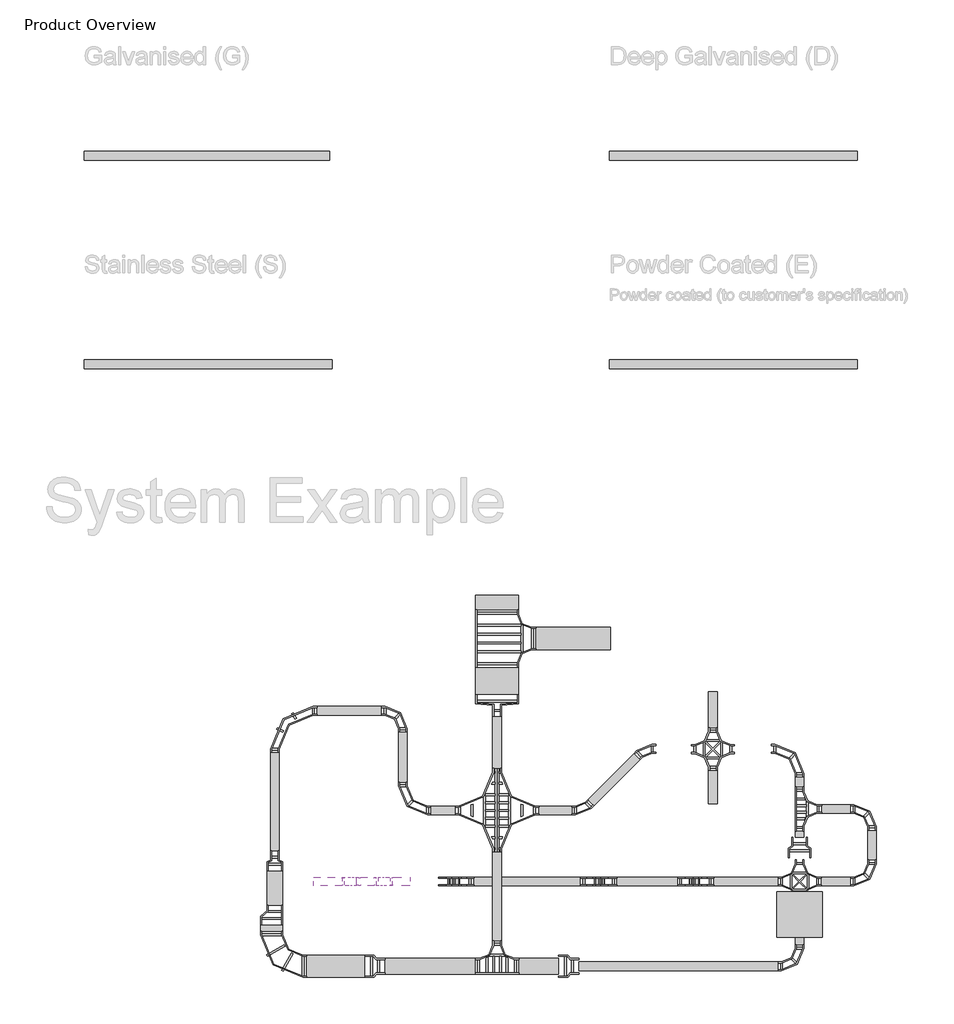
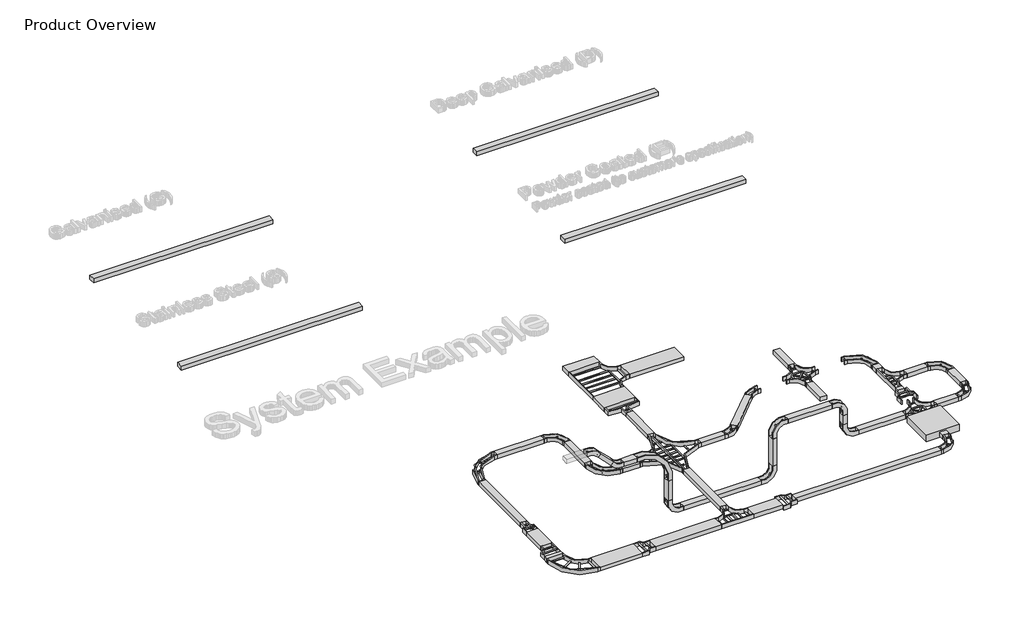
# One storey, part 1 of 11: 38 cable carrier segments, 31 cable carrier fittings.
"""IFC4 building model written with IfcOpenShell, lengths in millimetres."""

from ifc_helpers import new_model, si_unit, frame, origin, place, context, project, spatial, polyline, outline, extrude, transform, mapped, element, save
from components import cable_carrier_fitting_443c3c15, cable_carrier_fitting_424e6675, cable_carrier_fitting_62d549bb, cable_carrier_fitting_29c7f716, cable_carrier_fitting_75fde7c1, cable_carrier_fitting_a240c298, cable_carrier_fitting_5d45cd42, cable_carrier_fitting_f8c73cef, cable_carrier_fitting_98b40e06, cable_carrier_fitting_26770770, cable_carrier_fitting_0c686f5f, cable_carrier_fitting_333dc7c5, cable_carrier_fitting_d1dd5aaa, cable_carrier_fitting_c9547b50, cable_carrier_fitting_65ff17de, cable_carrier_fitting_0ded0fd3, cable_carrier_fitting_31077549, cable_carrier_fitting_8b4ef095, cable_carrier_fitting_3950a025, cable_carrier_fitting_13c8b803

model = new_model("IFC4")

# Units and contexts
model_context = context("Model", 3, world=origin())
ifc_project = project(units=[si_unit("LENGTHUNIT", "METRE", prefix="MILLI")], contexts=[model_context])

# Site, building, storey
site = spatial("IfcSite", under=ifc_project)
building = spatial("IfcBuilding", under=site)
storey = spatial("IfcBuildingStorey", under=building, Name="Product Overview", Elevation=0.0)

# Cable carrier fittings
placement = place(None, origin())
cable_carrier_fitting_shape = cable_carrier_fitting_443c3c15(model_context)
element("IfcCableCarrierFitting", 1, ObjectType="Legrand_CableLadder_Swifts_Sapphire_InsideRiser-13 : Hot Dip Galvanised (after manufacture)", at=placement, inside=storey, context=model_context, shape_type="MappedRepresentation", body=[
    mapped(cable_carrier_fitting_shape, transform((-2535.3278682, -30727.1295085, 0.0), x_axis=(-1.0, 0.0, 0.0), y_axis=(0.0, 0.0, 1.0), z_axis=(0.0, 1.0, 0.0))),
])
element("IfcCableCarrierFitting", 2, ObjectType="Legrand_CableLadder_Swifts_Sapphire_InsideRiser-13 : Hot Dip Galvanised (after manufacture)", at=placement, inside=storey, context=model_context, shape_type="MappedRepresentation", body=[
    mapped(cable_carrier_fitting_shape, transform((-4675.3278682, -30727.1295085, -580.0), x_axis=(0.0, 0.0, -1.0), y_axis=(-1.0, 0.0, 0.0), z_axis=(0.0, 1.0, 0.0))),
])
element("IfcCableCarrierFitting", 3, ObjectType="Legrand_CableLadder_Swifts_Sapphire_InsideRiser-13 : Hot Dip Galvanised (after manufacture)", at=placement, inside=storey, context=model_context, shape_type="MappedRepresentation", body=[
    mapped(cable_carrier_fitting_shape, transform((-7835.3278682, -30727.1295085, -580.0), x_axis=(-1.0, 0.0, 0.0), y_axis=(0.0, 0.0, 1.0), z_axis=(0.0, 1.0, 0.0))),
])
cable_carrier_fitting_2_shape = cable_carrier_fitting_424e6675(model_context)
element("IfcCableCarrierFitting", 4, ObjectType="Legrand_CableLadder_Swifts_Sapphire_InsideRiser-13 : Hot Dip Galvanised (after manufacture)", at=placement, inside=storey, context=model_context, shape_type="MappedRepresentation", body=[
    mapped(cable_carrier_fitting_2_shape, transform((-9435.3278682, -30727.1295085, 1460.0), x_axis=(-1.0, 0.0, 0.0), y_axis=(0.0, 0.0, 1.0), z_axis=(0.0, 1.0, 0.0))),
])
cable_carrier_fitting_3_shape = cable_carrier_fitting_62d549bb(model_context)
element("IfcCableCarrierFitting", 5, ObjectType="Legrand_CableLadder_Swifts_Sapphire_OutsideRiser-13 : Hot Dip Galvanised (after manufacture)", at=placement, inside=storey, context=model_context, shape_type="MappedRepresentation", body=[
    mapped(cable_carrier_fitting_3_shape, transform((-7835.3278682, -30727.1295085, 1460.0), x_axis=(0.0, 0.0, 1.0), y_axis=(-1.0, 0.0, 0.0), z_axis=(0.0, -1.0, 0.0))),
])
cable_carrier_fitting_4_shape = cable_carrier_fitting_29c7f716(model_context)
element("IfcCableCarrierFitting", 6, ObjectType="Legrand_CableLadder_Swifts_Sapphire_Tee-300R-13 : Hot Dip Galvanised (after manufacture)", at=placement, inside=storey, context=model_context, shape_type="MappedRepresentation", body=[
    mapped(cable_carrier_fitting_4_shape, transform((-235.3278682, -29125.8055177, 0.0), x_axis=(0.0, 1.0, 0.0), y_axis=(-1.0, 0.0, 0.0), z_axis=(0.0, 0.0, 1.0))),
])
cable_carrier_fitting_5_shape = cable_carrier_fitting_75fde7c1(model_context)
element("IfcCableCarrierFitting", 7, ObjectType="Legrand_CableLadder_Swifts_Sapphire_Cross-300R-13 : Hot Dip Galvanised (after manufacture)", at=placement, inside=storey, context=model_context, shape_type="MappedRepresentation", body=[
    mapped(cable_carrier_fitting_5_shape, transform((-235.3278682, -30727.1295085, 0.0), x_axis=(-1.0, 0.0, 0.0), y_axis=(0.0, -1.0, 0.0), z_axis=(0.0, 0.0, 1.0))),
])
element("IfcCableCarrierFitting", 8, ObjectType="Legrand_CableLadder_Swifts_Sapphire_Cross-300R-13 : Hot Dip Galvanised (after manufacture)", at=placement, inside=storey, context=model_context, shape_type="MappedRepresentation", body=[
    mapped(cable_carrier_fitting_5_shape, transform((-2149.1009275, -27806.4557468, 0.0), x_axis=(0.0, -1.0, 0.0), y_axis=(1.0, 0.0, 0.0), z_axis=(0.0, 0.0, 1.0))),
])
cable_carrier_fitting_6_shape = cable_carrier_fitting_a240c298(model_context)
element("IfcCableCarrierFitting", 9, ObjectType="Legrand_CableLadder_Swifts_Sapphire_Reducer-13 : Straight - Hot Dip Galvanised (after manufacture)", at=placement, inside=storey, context=model_context, shape_type="MappedRepresentation", body=[
    mapped(cable_carrier_fitting_6_shape, transform((-5335.3278682, -32598.0623334, 0.0), x_axis=(-1.0, 0.0, 0.0), y_axis=(0.0, 1.0, 0.0), z_axis=(0.0, 0.0, -1.0))),
])
element("IfcCableCarrierFitting", 10, ObjectType="Legrand_CableLadder_Swifts_Sapphire_Reducer-13 : Straight - Hot Dip Galvanised (after manufacture)", at=placement, inside=storey, context=model_context, shape_type="MappedRepresentation", body=[
    mapped(cable_carrier_fitting_6_shape, transform((-9618.7108514, -32598.0623334, 0.0), x_axis=(-1.0, 0.0, 0.0), y_axis=(0.0, 1.0, 0.0), z_axis=(0.0, 0.0, -1.0))),
])
element("IfcCableCarrierFitting", 11, ObjectType="Legrand_CableLadder_Swifts_Sapphire_Reducer-13 : Straight - Hot Dip Galvanised (after manufacture)", at=placement, inside=storey, context=model_context, shape_type="MappedRepresentation", body=[
    mapped(cable_carrier_fitting_6_shape, transform((-235.3278682, -29975.1295085, 0.0), x_axis=(0.0, -1.0, 0.0), y_axis=(-1.0, 0.0, 0.0), z_axis=(0.0, 0.0, -1.0))),
])
cable_carrier_fitting_7_shape = cable_carrier_fitting_5d45cd42(model_context)
element("IfcCableCarrierFitting", 12, ObjectType="Legrand_CableLadder_Swifts_Sapphire_Reducer-13 : Right Hand - Hot Dip Galvanised (after manufacture)", at=placement, inside=storey, context=model_context, shape_type="MappedRepresentation", body=[
    mapped(cable_carrier_fitting_7_shape, transform((-11896.6702496, -31473.0623334, 0.0), x_axis=(0.0, -1.0, 0.0), y_axis=(-1.0, 0.0, 0.0), z_axis=(0.0, 0.0, -1.0))),
])
cable_carrier_fitting_8_shape = cable_carrier_fitting_f8c73cef(model_context)
element("IfcCableCarrierFitting", 13, ObjectType="Legrand_CableLadder_Swifts_Sapphire_Cross2Piece-750R-13 : Hot Dip Galvanised (after manufacture)", at=placement, inside=storey, context=model_context, shape_type="MappedRepresentation", body=[
    mapped(cable_carrier_fitting_8_shape, transform((-6916.8898911, -29159.4047148, 0.0), x_axis=(0.0, -1.0, 0.0), y_axis=(1.0, 0.0, 0.0), z_axis=(0.0, 0.0, 1.0))),
])
cable_carrier_fitting_9_shape = cable_carrier_fitting_98b40e06(model_context)
element("IfcCableCarrierFitting", 14, ObjectType="Legrand_CableLadder_Swifts_Sapphire_FlatBend-13 : Hot Dip Galvanised (after manufacture)", at=placement, inside=storey, context=model_context, shape_type="MappedRepresentation", body=[
    mapped(cable_carrier_fitting_9_shape, transform((-235.3278682, -32598.0623334, 0.0), x_axis=(1.0, 0.0, 0.0), y_axis=(0.0, 1.0, 0.0), z_axis=(0.0, 0.0, 1.0))),
])
element("IfcCableCarrierFitting", 15, ObjectType="Legrand_CableLadder_Swifts_Sapphire_FlatBend-13 : Hot Dip Galvanised (after manufacture)", at=placement, inside=storey, context=model_context, shape_type="MappedRepresentation", body=[
    mapped(cable_carrier_fitting_9_shape, transform((-8996.6702496, -26959.4047148, 0.0), x_axis=(0.0, 1.0, 0.0), y_axis=(-1.0, 0.0, 0.0), z_axis=(0.0, 0.0, 1.0))),
])
element("IfcCableCarrierFitting", 16, ObjectType="Legrand_CableLadder_Swifts_Sapphire_FlatBend-13 : Hot Dip Galvanised (after manufacture)", at=placement, inside=storey, context=model_context, shape_type="MappedRepresentation", body=[
    mapped(cable_carrier_fitting_9_shape, transform((1364.6721318, -29125.8055177, 0.0), x_axis=(0.0, 1.0, 0.0), y_axis=(-1.0, 0.0, 0.0), z_axis=(0.0, 0.0, 1.0))),
])
element("IfcCableCarrierFitting", 17, ObjectType="Legrand_CableLadder_Swifts_Sapphire_FlatBend-13 : Hot Dip Galvanised (after manufacture)", at=placement, inside=storey, context=model_context, shape_type="MappedRepresentation", body=[
    mapped(cable_carrier_fitting_9_shape, transform((1364.6721318, -30727.1295085, 0.0), x_axis=(1.0, 0.0, 0.0), y_axis=(0.0, 1.0, 0.0), z_axis=(0.0, 0.0, 1.0))),
])
cable_carrier_fitting_10_shape = cable_carrier_fitting_26770770(model_context)
element("IfcCableCarrierFitting", 18, ObjectType="Legrand_CableLadder_Swifts_Sapphire_FlatBend-13 : Hot Dip Galvanised (after manufacture)", at=placement, inside=storey, context=model_context, shape_type="MappedRepresentation", body=[
    mapped(cable_carrier_fitting_10_shape, transform((-235.3278682, -27798.0623334, 0.0), x_axis=(0.0, 1.0, 0.0), y_axis=(-1.0, 0.0, 0.0), z_axis=(0.0, 0.0, 1.0))),
])
element("IfcCableCarrierFitting", 19, ObjectType="Legrand_CableLadder_Swifts_Sapphire_FlatBend-13 : Hot Dip Galvanised (after manufacture)", at=placement, inside=storey, context=model_context, shape_type="MappedRepresentation", body=[
    mapped(cable_carrier_fitting_10_shape, transform((-8996.6702496, -29159.4047148, 0.0), x_axis=(0.0, -1.0, 0.0), y_axis=(1.0, 0.0, 0.0), z_axis=(0.0, 0.0, 1.0))),
])
cable_carrier_fitting_11_shape = cable_carrier_fitting_0c686f5f(model_context)
element("IfcCableCarrierFitting", 20, ObjectType="Legrand_CableLadder_Swifts_Sapphire_FlatBend-13 : Hot Dip Galvanised (after manufacture)", at=placement, inside=storey, context=model_context, shape_type="MappedRepresentation", body=[
    mapped(cable_carrier_fitting_11_shape, transform((-5016.6702496, -29159.4047148, 0.0), x_axis=(1.0, 0.0, 0.0), y_axis=(0.0, 1.0, 0.0), z_axis=(0.0, 0.0, 1.0))),
])
element("IfcCableCarrierFitting", 21, ObjectType="Legrand_CableLadder_Swifts_Sapphire_FlatBend-13 : Hot Dip Galvanised (after manufacture)", at=placement, inside=storey, context=model_context, shape_type="MappedRepresentation", body=[
    mapped(cable_carrier_fitting_11_shape, transform((-3655.3278682, -27798.0623334, 0.0), x_axis=(-1.0, 0.0, 0.0), y_axis=(0.0, -1.0, 0.0), z_axis=(0.0, 0.0, 1.0))),
])
cable_carrier_fitting_12_shape = cable_carrier_fitting_333dc7c5(model_context)
element("IfcCableCarrierFitting", 22, ObjectType="Legrand_CableLadder_Swifts_Sapphire_FlatBend-13 : Hot Dip Galvanised (after manufacture)", at=placement, inside=storey, context=model_context, shape_type="MappedRepresentation", body=[
    mapped(cable_carrier_fitting_12_shape, transform((-11896.6702496, -32598.0623334, 0.0), x_axis=(0.0, -1.0, 0.0), y_axis=(1.0, 0.0, 0.0), z_axis=(0.0, 0.0, 1.0))),
])
cable_carrier_fitting_13_shape = cable_carrier_fitting_d1dd5aaa(model_context)
element("IfcCableCarrierFitting", 23, ObjectType="Legrand_CableLadder_Swifts_Sapphire_FlatBend-13 : Hot Dip Galvanised (after manufacture)", at=placement, inside=storey, context=model_context, shape_type="MappedRepresentation", body=[
    mapped(cable_carrier_fitting_13_shape, transform((-11821.6702496, -26959.4047148, 0.0), x_axis=(-1.0, 0.0, 0.0), y_axis=(0.0, -1.0, 0.0), z_axis=(0.0, 0.0, 1.0))),
])
cable_carrier_fitting_14_shape = cable_carrier_fitting_c9547b50(model_context)
element("IfcCableCarrierFitting", 24, ObjectType="Legrand_CableLadder_Swifts_Sapphire_OutsideRiser-13 : Hot Dip Galvanised (after manufacture)", at=placement, inside=storey, context=model_context, shape_type="MappedRepresentation", body=[
    mapped(cable_carrier_fitting_14_shape, transform((-2535.3278682, -30727.1295085, 1100.0), x_axis=(0.0, 0.0, 1.0), y_axis=(-1.0, 0.0, 0.0), z_axis=(0.0, -1.0, 0.0))),
])
element("IfcCableCarrierFitting", 25, ObjectType="Legrand_CableLadder_Swifts_Sapphire_OutsideRiser-13 : Hot Dip Galvanised (after manufacture)", at=placement, inside=storey, context=model_context, shape_type="MappedRepresentation", body=[
    mapped(cable_carrier_fitting_14_shape, transform((-4675.3278682, -30727.1295085, 1100.0), x_axis=(-1.0, 0.0, 0.0), y_axis=(0.0, 0.0, -1.0), z_axis=(0.0, -1.0, 0.0))),
])
cable_carrier_fitting_15_shape = cable_carrier_fitting_65ff17de(model_context)
element("IfcCableCarrierFitting", 26, ObjectType="Legrand_CableLadder_Swifts_Sapphire_OutsideRiser-13 : Hot Dip Galvanised (after manufacture)", at=placement, inside=storey, context=model_context, shape_type="MappedRepresentation", body=[
    mapped(cable_carrier_fitting_15_shape, transform((-10128.2925137, -30727.1295085, 2152.9646456), x_axis=(-0.7071067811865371, 0.0, 0.7071067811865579), y_axis=(-0.7071067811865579, 0.0, -0.7071067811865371), z_axis=(0.0, -1.0, 0.0))),
])
cable_carrier_fitting_16_shape = cable_carrier_fitting_0ded0fd3(model_context)
element("IfcCableCarrierFitting", 27, ObjectType="Legrand_CableLadder_Swifts_Sapphire_Reducer-13 : Straight - Hot Dip Galvanised (after manufacture)", at=placement, inside=storey, context=model_context, shape_type="MappedRepresentation", body=[
    mapped(cable_carrier_fitting_16_shape, transform((-235.3278682, -31454.1295085, 0.0), x_axis=(0.0, 1.0, 0.0), y_axis=(1.0, 0.0, 0.0), z_axis=(0.0, 0.0, -1.0))),
])
cable_carrier_fitting_17_shape = cable_carrier_fitting_31077549(model_context)
element("IfcCableCarrierFitting", 28, ObjectType="Legrand_CableLadder_Swifts_Sapphire_Reducer-13 : Straight - Hot Dip Galvanised (after manufacture)", at=placement, inside=storey, context=model_context, shape_type="MappedRepresentation", body=[
    mapped(cable_carrier_fitting_17_shape, transform((-11821.6702496, -30273.0623334, 0.0), x_axis=(0.0, -1.0, 0.0), y_axis=(-1.0, 0.0, 0.0), z_axis=(0.0, 0.0, -1.0))),
])
cable_carrier_fitting_18_shape = cable_carrier_fitting_8b4ef095(model_context)
element("IfcCableCarrierFitting", 29, ObjectType="Legrand_CableLadder_Swifts_Sapphire_Reducer-13 : Straight - Hot Dip Galvanised (after manufacture)", at=placement, inside=storey, context=model_context, shape_type="MappedRepresentation", body=[
    mapped(cable_carrier_fitting_18_shape, transform((-6916.8898911, -26842.4047148, 0.0), x_axis=(0.0, 1.0, 0.0), y_axis=(1.0, 0.0, 0.0), z_axis=(0.0, 0.0, -1.0))),
])
cable_carrier_fitting_19_shape = cable_carrier_fitting_3950a025(model_context)
element("IfcCableCarrierFitting", 30, ObjectType="Legrand_CableLadder_Swifts_Sapphire_Tee-300R-13 : Hot Dip Galvanised (after manufacture)", at=placement, inside=storey, context=model_context, shape_type="MappedRepresentation", body=[
    mapped(cable_carrier_fitting_19_shape, transform((-6916.8898911, -32598.0623334, 0.0), x_axis=(-1.0, 0.0, 0.0), y_axis=(0.0, -1.0, 0.0), z_axis=(0.0, 0.0, 1.0))),
])
cable_carrier_fitting_20_shape = cable_carrier_fitting_13c8b803(model_context)
element("IfcCableCarrierFitting", 31, ObjectType="Legrand_CableLadder_Swifts_Sapphire_Tee-300R-13 : Hot Dip Galvanised (after manufacture)", at=placement, inside=storey, context=model_context, shape_type="MappedRepresentation", body=[
    mapped(cable_carrier_fitting_20_shape, transform((-6916.8898911, -25363.4427232, 0.0), x_axis=(0.0, 1.0, 0.0), y_axis=(-1.0, 0.0, 0.0), z_axis=(0.0, 0.0, 1.0))),
])

# Cable carrier segments
element("IfcCableCarrierSegment", 32, ObjectType="Swifts Cable Ladder - Sapphire - Hot Dip Galvanised (after manufacture)", at=placement, inside=storey, context=model_context, shape_type="SweptSolid", body=[
    extrude(outline(polyline([(-16036.6702496, -14805.2353756), (-16036.6702496, -14611.2353756), (-10616.5659778, -14611.2353756), (-10616.5659778, -14805.2353756), (-16036.6702496, -14805.2353756)])), frame((0.0, 0.0, -62.5), z_axis=(0.0, 0.0, 1.0), x_axis=(1.0, 0.0, 0.0)), (0.0, 0.0, 1.0), 125.0),
])
element("IfcCableCarrierSegment", 33, ObjectType="Swifts Cable Ladder - Sapphire - Stainless Steel", at=placement, inside=storey, context=model_context, shape_type="SweptSolid", body=[
    extrude(outline(polyline([(-16036.6702496, -19405.2353756), (-16036.6702496, -19211.2353756), (-10556.5659778, -19211.2353756), (-10556.5659778, -19405.2353756), (-16036.6702496, -19405.2353756)])), frame((0.0, 0.0, -62.5), z_axis=(0.0, 0.0, 1.0), x_axis=(1.0, 0.0, 0.0)), (0.0, 0.0, 1.0), 125.0),
])
element("IfcCableCarrierSegment", 34, ObjectType="Swifts Cable Ladder - Sapphire - Deep Galvanized", at=placement, inside=storey, context=model_context, shape_type="SweptSolid", body=[
    extrude(outline(polyline([(-4436.6702496, -14805.2353756), (-4436.6702496, -14611.2353756), (1043.4340222, -14611.2353756), (1043.4340222, -14805.2353756), (-4436.6702496, -14805.2353756)])), frame((0.0, 0.0, -62.5), z_axis=(0.0, 0.0, 1.0), x_axis=(1.0, 0.0, 0.0)), (0.0, 0.0, 1.0), 125.0),
])
element("IfcCableCarrierSegment", 35, ObjectType="Swifts Cable Ladder - Sapphire - Powder Coated", at=placement, inside=storey, context=model_context, shape_type="SweptSolid", body=[
    extrude(outline(polyline([(-4436.6702496, -19405.2353756), (-4436.6702496, -19211.2353756), (1043.4340222, -19211.2353756), (1043.4340222, -19405.2353756), (-4436.6702496, -19405.2353756)])), frame((0.0, 0.0, -62.5), z_axis=(0.0, 0.0, 1.0), x_axis=(1.0, 0.0, 0.0)), (0.0, 0.0, 1.0), 125.0),
])
element("IfcCableCarrierSegment", 36, ObjectType="Swifts Cable Ladder - Sapphire - Hot Dip Galvanised (after manufacture)", at=placement, inside=storey, context=model_context, shape_type="SweptSolid", body=[
    extrude(outline(polyline([(-6427.1398911, -32770.0623334), (-6427.1398911, -32426.0623334), (-5560.3278682, -32426.0623334), (-5560.3278682, -32770.0623334), (-6427.1398911, -32770.0623334)])), frame((0.0, 0.0, -62.5), z_axis=(0.0, 0.0, 1.0), x_axis=(1.0, 0.0, 0.0)), (0.0, 0.0, 1.0), 125.0),
])
element("IfcCableCarrierSegment", 37, ObjectType="Swifts Cable Ladder - Sapphire - Hot Dip Galvanised (after manufacture)", at=placement, inside=storey, context=model_context, shape_type="SweptSolid", body=[
    extrude(outline(polyline([(-5110.3278682, -32695.0623334), (-5110.3278682, -32501.0623334), (-712.3278682, -32501.0623334), (-712.3278682, -32695.0623334), (-5110.3278682, -32695.0623334)])), frame((0.0, 0.0, -62.5), z_axis=(0.0, 0.0, 1.0), x_axis=(1.0, 0.0, 0.0)), (0.0, 0.0, 1.0), 125.0),
])
element("IfcCableCarrierSegment", 38, ObjectType="Swifts Cable Ladder - Sapphire - Hot Dip Galvanised (after manufacture)", at=placement, inside=storey, context=model_context, shape_type="SweptSolid", body=[
    extrude(outline(polyline([(-138.3278682, -28636.0555177), (-332.3278682, -28636.0555177), (-332.3278682, -28425.0623334), (-138.3278682, -28425.0623334), (-138.3278682, -28636.0555177)])), frame((0.0, 0.0, -62.5), z_axis=(0.0, 0.0, 1.0), x_axis=(1.0, 0.0, 0.0)), (0.0, 0.0, 1.0), 125.0),
])
element("IfcCableCarrierSegment", 39, ObjectType="Swifts Cable Ladder - Sapphire - Hot Dip Galvanised (after manufacture)", at=placement, inside=storey, context=model_context, shape_type="SweptSolid", body=[
    extrude(outline(polyline([(-3896.7643763, -27902.320126), (-3759.5856608, -28039.4988416), (-4775.2337414, -29055.1469222), (-4912.412457, -28917.9682067), (-3896.7643763, -27902.320126)])), frame((0.0, 0.0, -62.5), z_axis=(0.0, 0.0, 1.0), x_axis=(1.0, 0.0, 0.0)), (0.0, 0.0, 1.0), 125.0),
])
element("IfcCableCarrierSegment", 40, ObjectType="Swifts Cable Ladder - Sapphire - Hot Dip Galvanised (after manufacture)", at=placement, inside=storey, context=model_context, shape_type="SweptSolid", body=[
    extrude(outline(polyline([(-7843.8898911, -29062.4047148), (-7843.8898911, -29256.4047148), (-8369.6702496, -29256.4047148), (-8369.6702496, -29062.4047148), (-7843.8898911, -29062.4047148)])), frame((0.0, 0.0, -62.5), z_axis=(0.0, 0.0, 1.0), x_axis=(1.0, 0.0, 0.0)), (0.0, 0.0, 1.0), 125.0),
])
element("IfcCableCarrierSegment", 41, ObjectType="Swifts Cable Ladder - Sapphire - Hot Dip Galvanised (after manufacture)", at=placement, inside=storey, context=model_context, shape_type="SweptSolid", body=[
    extrude(outline(polyline([(-8899.6702496, -28532.4047148), (-9093.6702496, -28532.4047148), (-9093.6702496, -27436.4047148), (-8899.6702496, -27436.4047148), (-8899.6702496, -28532.4047148)])), frame((0.0, 0.0, -62.5), z_axis=(0.0, 0.0, 1.0), x_axis=(1.0, 0.0, 0.0)), (0.0, 0.0, 1.0), 125.0),
])
element("IfcCableCarrierSegment", 42, ObjectType="Swifts Cable Ladder - Sapphire - Hot Dip Galvanised (after manufacture)", at=placement, inside=storey, context=model_context, shape_type="SweptSolid", body=[
    extrude(outline(polyline([(254.4221318, -29222.8055177), (254.4221318, -29028.8055177), (887.6721318, -29028.8055177), (887.6721318, -29222.8055177), (254.4221318, -29222.8055177)])), frame((0.0, 0.0, -62.5), z_axis=(0.0, 0.0, 1.0), x_axis=(1.0, 0.0, 0.0)), (0.0, 0.0, 1.0), 125.0),
])
element("IfcCableCarrierSegment", 43, ObjectType="Swifts Cable Ladder - Sapphire - Hot Dip Galvanised (after manufacture)", at=placement, inside=storey, context=model_context, shape_type="SweptSolid", body=[
    extrude(outline(polyline([(-138.3278682, -29750.1295085), (-332.3278682, -29750.1295085), (-332.3278682, -29615.5555177), (-138.3278682, -29615.5555177), (-138.3278682, -29750.1295085)])), frame((0.0, 0.0, -62.5), z_axis=(0.0, 0.0, 1.0), x_axis=(1.0, 0.0, 0.0)), (0.0, 0.0, 1.0), 125.0),
])
element("IfcCableCarrierSegment", 44, ObjectType="Swifts Cable Ladder - Sapphire - Hot Dip Galvanised (after manufacture)", at=placement, inside=storey, context=model_context, shape_type="SweptSolid", body=[
    extrude(outline(polyline([(1267.6721318, -29602.8055177), (1461.6721318, -29602.8055177), (1461.6721318, -30250.1295085), (1267.6721318, -30250.1295085), (1267.6721318, -29602.8055177)])), frame((0.0, 0.0, -62.5), z_axis=(0.0, 0.0, 1.0), x_axis=(1.0, 0.0, 0.0)), (0.0, 0.0, 1.0), 125.0),
])
element("IfcCableCarrierSegment", 45, ObjectType="Swifts Cable Ladder - Sapphire - Hot Dip Galvanised (after manufacture)", at=placement, inside=storey, context=model_context, shape_type="SweptSolid", body=[
    extrude(outline(polyline([(-712.3278682, -30630.1295085), (-712.3278682, -30824.1295085), (-2129.8278682, -30824.1295085), (-2129.8278682, -30630.1295085), (-712.3278682, -30630.1295085)])), frame((0.0, 0.0, -62.5), z_axis=(0.0, 0.0, 1.0), x_axis=(1.0, 0.0, 0.0)), (0.0, 0.0, 1.0), 125.0),
])
element("IfcCableCarrierSegment", 46, ObjectType="Swifts Cable Ladder - Sapphire - Hot Dip Galvanised (after manufacture)", at=placement, inside=storey, context=model_context, shape_type="SweptSolid", body=[
    extrude(outline(polyline([(887.6721318, -30630.1295085), (887.6721318, -30824.1295085), (241.6721318, -30824.1295085), (241.6721318, -30630.1295085), (887.6721318, -30630.1295085)])), frame((0.0, 0.0, -62.5), z_axis=(0.0, 0.0, 1.0), x_axis=(1.0, 0.0, 0.0)), (0.0, 0.0, 1.0), 125.0),
])
element("IfcCableCarrierSegment", 47, ObjectType="Swifts Cable Ladder - Sapphire - Hot Dip Galvanised (after manufacture)", at=placement, inside=storey, context=model_context, shape_type="SweptSolid", body=[
    extrude(outline(polyline([(-138.3278682, -32121.0623334), (-332.3278682, -32121.0623334), (-332.3278682, -31704.1295085), (-138.3278682, -31704.1295085), (-138.3278682, -32121.0623334)])), frame((0.0, 0.0, -62.5), z_axis=(0.0, 0.0, 1.0), x_axis=(1.0, 0.0, 0.0)), (0.0, 0.0, 1.0), 125.0),
])
element("IfcCableCarrierSegment", 48, ObjectType="Swifts Cable Ladder - Sapphire - Hot Dip Galvanised (after manufacture)", at=placement, inside=storey, context=model_context, shape_type="SweptSolid", body=[
    extrude(outline(polyline([(-2246.1009275, -28283.4557468), (-2052.1009275, -28283.4557468), (-2052.1009275, -29015.0623334), (-2246.1009275, -29015.0623334), (-2246.1009275, -28283.4557468)])), frame((0.0, 0.0, -62.5), z_axis=(0.0, 0.0, 1.0), x_axis=(1.0, 0.0, 0.0)), (0.0, 0.0, 1.0), 125.0),
])
element("IfcCableCarrierSegment", 49, ObjectType="Swifts Cable Ladder - Sapphire - Hot Dip Galvanised (after manufacture)", at=placement, inside=storey, context=model_context, shape_type="SweptSolid", body=[
    extrude(outline(polyline([(-2052.1009275, -27329.4557468), (-2246.1009275, -27329.4557468), (-2246.1009275, -26541.0623334), (-2052.1009275, -26541.0623334), (-2052.1009275, -27329.4557468)])), frame((0.0, 0.0, -62.5), z_axis=(0.0, 0.0, 1.0), x_axis=(1.0, 0.0, 0.0)), (0.0, 0.0, 1.0), 125.0),
])
element("IfcCableCarrierSegment", 50, ObjectType="Swifts Cable Ladder - Sapphire - Hot Dip Galvanised (after manufacture)", at=placement, inside=storey, context=model_context, shape_type="SweptSolid", body=[
    extrude(outline(polyline([(-6819.8898911, -32033.3123334), (-7013.8898911, -32033.3123334), (-7013.8898911, -30086.4047148), (-6819.8898911, -30086.4047148), (-6819.8898911, -32033.3123334)])), frame((0.0, 0.0, -62.5), z_axis=(0.0, 0.0, 1.0), x_axis=(1.0, 0.0, 0.0)), (0.0, 0.0, 1.0), 125.0),
])
element("IfcCableCarrierSegment", 51, ObjectType="Swifts Cable Ladder - Sapphire - Hot Dip Galvanised (after manufacture)", at=placement, inside=storey, context=model_context, shape_type="SweptSolid", body=[
    extrude(outline(polyline([(-5261.1130338, -29062.4047148), (-5261.1130338, -29256.4047148), (-5989.8898911, -29256.4047148), (-5989.8898911, -29062.4047148), (-5261.1130338, -29062.4047148)])), frame((0.0, 0.0, -62.5), z_axis=(0.0, 0.0, 1.0), x_axis=(1.0, 0.0, 0.0)), (0.0, 0.0, 1.0), 125.0),
])
element("IfcCableCarrierSegment", 52, ObjectType="Swifts Cable Ladder - Sapphire - Hot Dip Galvanised (after manufacture)", at=placement, inside=storey, context=model_context, shape_type="SweptSolid", body=[
    extrude(outline(polyline([(-2597.8278682, -30630.1295085), (-2472.8278682, -30630.1295085), (-2472.8278682, -30824.1295085), (-2597.8278682, -30824.1295085), (-2597.8278682, -30630.1295085)])), frame((0.0, 0.0, 405.5), z_axis=(0.0, 0.0, 1.0), x_axis=(1.0, 0.0, 0.0)), (0.0, 0.0, 1.0), 289.0),
])
element("IfcCableCarrierSegment", 53, ObjectType="Swifts Cable Ladder - Sapphire - Hot Dip Galvanised (after manufacture)", at=placement, inside=storey, context=model_context, shape_type="SweptSolid", body=[
    extrude(outline(polyline([(-2937.0278682, -30630.1295085), (-2937.0278682, -30824.1295085), (-4269.8278682, -30824.1295085), (-4269.8278682, -30630.1295085), (-2937.0278682, -30630.1295085)])), frame((0.0, 0.0, 1037.5), z_axis=(0.0, 0.0, 1.0), x_axis=(1.0, 0.0, 0.0)), (0.0, 0.0, 1.0), 125.0),
])
element("IfcCableCarrierSegment", 54, ObjectType="Swifts Cable Ladder - Sapphire - Hot Dip Galvanised (after manufacture)", at=placement, inside=storey, context=model_context, shape_type="SweptSolid", body=[
    extrude(outline(polyline([(-4612.8278682, -30630.1295085), (-4612.8278682, -30824.1295085), (-4737.8278682, -30824.1295085), (-4737.8278682, -30630.1295085), (-4612.8278682, -30630.1295085)])), frame((0.0, 0.0, -174.5), z_axis=(0.0, 0.0, 1.0), x_axis=(1.0, 0.0, 0.0)), (0.0, 0.0, 1.0), 872.8),
])
element("IfcCableCarrierSegment", 55, ObjectType="Swifts Cable Ladder - Sapphire - Hot Dip Galvanised (after manufacture)", at=placement, inside=storey, context=model_context, shape_type="SweptSolid", body=[
    extrude(outline(polyline([(-6444.8898911, -24723.6927232), (-7388.8898911, -24723.6927232), (-7388.8898911, -24412.7472557), (-6444.8898911, -24412.7472557), (-6444.8898911, -24723.6927232)])), frame((0.0, 0.0, -62.5), z_axis=(0.0, 0.0, 1.0), x_axis=(1.0, 0.0, 0.0)), (0.0, 0.0, 1.0), 125.0),
])
element("IfcCableCarrierSegment", 56, ObjectType="Swifts Cable Ladder - Sapphire - Hot Dip Galvanised (after manufacture)", at=placement, inside=storey, context=model_context, shape_type="SweptSolid", body=[
    extrude(outline(polyline([(-6819.8898911, -28232.4047148), (-7013.8898911, -28232.4047148), (-7013.8898911, -27092.4047148), (-6819.8898911, -27092.4047148), (-6819.8898911, -28232.4047148)])), frame((0.0, 0.0, -62.5), z_axis=(0.0, 0.0, 1.0), x_axis=(1.0, 0.0, 0.0)), (0.0, 0.0, 1.0), 125.0),
])
element("IfcCableCarrierSegment", 57, ObjectType="Swifts Cable Ladder - Sapphire - Hot Dip Galvanised (after manufacture)", at=placement, inside=storey, context=model_context, shape_type="SweptSolid", body=[
    extrude(outline(polyline([(-6052.1398911, -25610.4427232), (-6052.1398911, -25116.4427232), (-4416.8898911, -25116.4427232), (-4416.8898911, -25610.4427232), (-6052.1398911, -25610.4427232)])), frame((0.0, 0.0, -62.5), z_axis=(0.0, 0.0, 1.0), x_axis=(1.0, 0.0, 0.0)), (0.0, 0.0, 1.0), 125.0),
])
element("IfcCableCarrierSegment", 58, ObjectType="Swifts Cable Ladder - Sapphire - Hot Dip Galvanised (after manufacture)", at=placement, inside=storey, context=model_context, shape_type="SweptSolid", body=[
    extrude(outline(polyline([(-7388.8898911, -26003.1927232), (-6444.8898911, -26003.1927232), (-6444.8898911, -26592.4047148), (-7388.8898911, -26592.4047148), (-7388.8898911, -26003.1927232)])), frame((0.0, 0.0, -62.5), z_axis=(0.0, 0.0, 1.0), x_axis=(1.0, 0.0, 0.0)), (0.0, 0.0, 1.0), 125.0),
])
element("IfcCableCarrierSegment", 59, ObjectType="Swifts Cable Ladder - Sapphire - Hot Dip Galvanised (after manufacture)", at=placement, inside=storey, context=model_context, shape_type="SweptSolid", body=[
    extrude(outline(polyline([(-9393.7108514, -32770.0623334), (-9393.7108514, -32426.0623334), (-7406.6398911, -32426.0623334), (-7406.6398911, -32770.0623334), (-9393.7108514, -32770.0623334)])), frame((0.0, 0.0, -62.5), z_axis=(0.0, 0.0, 1.0), x_axis=(1.0, 0.0, 0.0)), (0.0, 0.0, 1.0), 125.0),
])
element("IfcCableCarrierSegment", 60, ObjectType="Swifts Cable Ladder - Sapphire - Hot Dip Galvanised (after manufacture)", at=placement, inside=storey, context=model_context, shape_type="SweptSolid", body=[
    extrude(outline(polyline([(-9843.7108514, -32351.0623334), (-9843.7108514, -32845.0623334), (-11119.6702496, -32845.0623334), (-11119.6702496, -32351.0623334), (-9843.7108514, -32351.0623334)])), frame((0.0, 0.0, -62.5), z_axis=(0.0, 0.0, 1.0), x_axis=(1.0, 0.0, 0.0)), (0.0, 0.0, 1.0), 125.0),
])
element("IfcCableCarrierSegment", 61, ObjectType="Swifts Cable Ladder - Sapphire - Hot Dip Galvanised (after manufacture)", at=placement, inside=storey, context=model_context, shape_type="SweptSolid", body=[
    extrude(outline(polyline([(-11649.6702496, -31821.0623334), (-12143.6702496, -31821.0623334), (-12143.6702496, -31698.0623334), (-11649.6702496, -31698.0623334), (-11649.6702496, -31821.0623334)])), frame((0.0, 0.0, -62.5), z_axis=(0.0, 0.0, 1.0), x_axis=(1.0, 0.0, 0.0)), (0.0, 0.0, 1.0), 125.0),
])
element("IfcCableCarrierSegment", 62, ObjectType="Swifts Cable Ladder - Sapphire - Hot Dip Galvanised (after manufacture)", at=placement, inside=storey, context=model_context, shape_type="SweptSolid", body=[
    extrude(outline(polyline([(-11649.6702496, -31248.0623334), (-11993.6702496, -31248.0623334), (-11993.6702496, -30498.0623334), (-11649.6702496, -30498.0623334), (-11649.6702496, -31248.0623334)])), frame((0.0, 0.0, -62.5), z_axis=(0.0, 0.0, 1.0), x_axis=(1.0, 0.0, 0.0)), (0.0, 0.0, 1.0), 125.0),
])
element("IfcCableCarrierSegment", 63, ObjectType="Swifts Cable Ladder - Sapphire - Hot Dip Galvanised (after manufacture)", at=placement, inside=storey, context=model_context, shape_type="SweptSolid", body=[
    extrude(outline(polyline([(-11724.6702496, -30048.0623334), (-11918.6702496, -30048.0623334), (-11918.6702496, -27886.4047148), (-11724.6702496, -27886.4047148), (-11724.6702496, -30048.0623334)])), frame((0.0, 0.0, -62.5), z_axis=(0.0, 0.0, 1.0), x_axis=(1.0, 0.0, 0.0)), (0.0, 0.0, 1.0), 125.0),
])
element("IfcCableCarrierSegment", 64, ObjectType="Swifts Cable Ladder - Sapphire - Hot Dip Galvanised (after manufacture)", at=placement, inside=storey, context=model_context, shape_type="SweptSolid", body=[
    extrude(outline(polyline([(-9473.6702496, -26862.4047148), (-9473.6702496, -27056.4047148), (-10894.6702496, -27056.4047148), (-10894.6702496, -26862.4047148), (-9473.6702496, -26862.4047148)])), frame((0.0, 0.0, -62.5), z_axis=(0.0, 0.0, 1.0), x_axis=(1.0, 0.0, 0.0)), (0.0, 0.0, 1.0), 125.0),
])
element("IfcCableCarrierSegment", 65, ObjectType="Swifts Cable Ladder - Sapphire - Hot Dip Galvanised (after manufacture)", at=placement, inside=storey, context=model_context, shape_type="SweptSolid", body=[
    extrude(outline(polyline([(-5080.8278682, -30630.1295085), (-5080.8278682, -30824.1295085), (-7429.8278682, -30824.1295085), (-7429.8278682, -30630.1295085), (-5080.8278682, -30630.1295085)])), frame((0.0, 0.0, -642.5), z_axis=(0.0, 0.0, 1.0), x_axis=(1.0, 0.0, 0.0)), (0.0, 0.0, 1.0), 125.0),
])
element("IfcCableCarrierSegment", 66, ObjectType="Swifts Cable Ladder - Sapphire - Hot Dip Galvanised (after manufacture)", at=placement, inside=storey, context=model_context, shape_type="SweptSolid", body=[
    extrude(outline(polyline([(-7897.8278682, -30630.1295085), (-7772.8278682, -30630.1295085), (-7772.8278682, -30824.1295085), (-7897.8278682, -30824.1295085), (-7897.8278682, -30630.1295085)])), frame((0.0, 0.0, -174.5), z_axis=(0.0, 0.0, 1.0), x_axis=(1.0, 0.0, 0.0)), (0.0, 0.0, 1.0), 629.0),
])
element("IfcCableCarrierSegment", 67, ObjectType="Swifts Cable Ladder - Sapphire - Hot Dip Galvanised (after manufacture)", at=placement, inside=storey, context=model_context, shape_type="SweptSolid", body=[
    extrude(outline(polyline([(-8837.0278682, -30630.1295085), (-8837.0278682, -30824.1295085), (-9220.5013536, -30824.1295085), (-9220.5013536, -30630.1295085), (-8837.0278682, -30630.1295085)])), frame((0.0, 0.0, 1397.5), z_axis=(0.0, 0.0, 1.0), x_axis=(1.0, 0.0, 0.0)), (0.0, 0.0, 1.0), 125.0),
])
element("IfcCableCarrierSegment", 68, ObjectType="Swifts Cable Ladder - Sapphire - Hot Dip Galvanised (after manufacture)", at=placement, inside=storey, context=model_context, shape_type="SweptSolid", body=[
    extrude(outline(polyline([(0.0, -194.0), (0.0, 0.0), (550.3469709, 0.0), (550.3469709, -194.0), (0.0, -194.0)])), frame((-9631.4273272, -30824.1295085, 1567.7111114), z_axis=(0.7071067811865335, 0.0, 0.7071067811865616), x_axis=(-0.7071067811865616, 0.0, 0.7071067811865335)), (0.0, 0.0, 1.0), 125.0),
])
element("IfcCableCarrierSegment", 69, ObjectType="Swifts Cable Ladder - Sapphire - Hot Dip Galvanised (after manufacture)", at=placement, inside=storey, context=model_context, shape_type="SweptSolid", body=[
    extrude(outline(polyline([(-10339.3190283, -30630.1295085), (-10339.3190283, -30824.1295085), (-10968.2925137, -30824.1295085), (-10968.2925137, -30630.1295085), (-10339.3190283, -30630.1295085)])), frame((0.0, 0.0, 2090.4646456), z_axis=(0.0, 0.0, 1.0), x_axis=(1.0, 0.0, 0.0)), (0.0, 0.0, 1.0), 125.0),
])

save(model, "model.ifc")
